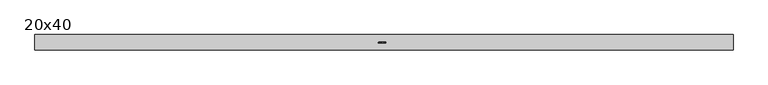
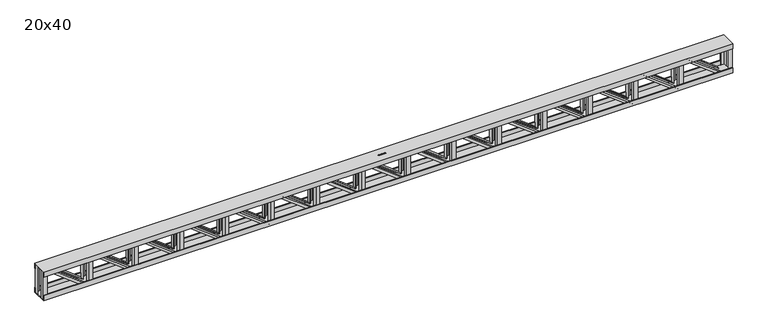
"""IFC4 building model written with IfcOpenShell, lengths in millimetres: beam geometry, Viga Treliçada - Igor Ramos.0001 : 20x40."""

import ifcopenshell
import ifcopenshell.guid

model = None  # the IFC model being written
_history = None  # IfcOwnerHistory: only IFC2X3 demands one
_inside = {}  # id of a spatial element -> (the spatial element, [elements in it])
_under = {}  # id of a project, library or spatial element -> (it, [spatial elements below it])
_declared = {}  # id of a project -> (the project, [libraries it declares])
_typed = {}  # id of a type object -> (the type object, [elements of that type])
_made_of = {}  # id of a material, layer set ... -> (it, [elements and type objects made of it])


def new_model(schema):
    """Start an empty IFC model of exactly this schema.

    Asked for "IFC4X3", IfcOpenShell would pick the latest addendum, in which some entities
    have other attributes; the version numbers below select the first issue.
    IFC2X3 requires an IfcOwnerHistory on every rooted entity: one is made here for all.
    """
    global model, _history
    if schema == "IFC4X3":
        model = ifcopenshell.file(schema_version=(4, 3, 0, 0))
    else:
        model = ifcopenshell.file(schema=schema)
    _inside.clear()
    _under.clear()
    _declared.clear()
    _typed.clear()
    _made_of.clear()
    _history = None
    if model.schema == "IFC2X3":
        org = make("IfcOrganization", Name="unknown")
        user = make(
            "IfcPersonAndOrganization",
            ThePerson=make("IfcPerson", FamilyName="unknown"),
            TheOrganization=org,
        )
        app = make(
            "IfcApplication",
            ApplicationDeveloper=org,
            Version="unknown",
            ApplicationFullName="unknown",
            ApplicationIdentifier="unknown",
        )
        _history = make(
            "IfcOwnerHistory",
            OwningUser=user,
            OwningApplication=app,
            ChangeAction="ADDED",
            CreationDate=0,
        )
    return model


def make(cls, **values):
    """One entity of the class cls with the attributes given. An attribute that is None is left unset."""
    return model.create_entity(
        cls, **{name: value for name, value in values.items() if value is not None}
    )


def rooted(cls, **values):
    """An entity with a GlobalId (a new one), such as an element, a storey or a relation."""
    return make(cls, GlobalId=ifcopenshell.guid.new(), OwnerHistory=_history, **values)


def si_unit(unit_type, name, prefix=None):
    """IfcSIUnit, for example si_unit("LENGTHUNIT", "METRE", prefix="MILLI")."""
    return make("IfcSIUnit", UnitType=unit_type, Prefix=prefix, Name=name)


def assignment(units):
    """IfcUnitAssignment: the units of a project."""
    return None if units is None else make("IfcUnitAssignment", Units=units)


def point(xyz):
    """IfcCartesianPoint."""
    return None if xyz is None else make("IfcCartesianPoint", Coordinates=xyz)


def direction(xyz):
    """IfcDirection."""
    return None if xyz is None else make("IfcDirection", DirectionRatios=xyz)


def frame(location, z_axis=None, x_axis=None):
    """IfcAxis2Placement3D, a coordinate frame: its origin and axes. An axis left out is left unset."""
    return make(
        "IfcAxis2Placement3D",
        Location=point(location),
        Axis=direction(z_axis),
        RefDirection=direction(x_axis),
    )


def origin():
    """The frame at (0, 0, 0) with its axes left unset."""
    return frame((0.0, 0.0, 0.0))


def place(relative_to, where):
    """IfcLocalPlacement: puts the frame where relative to a parent placement (None: the world)."""
    return make(
        "IfcLocalPlacement", PlacementRelTo=relative_to, RelativePlacement=where
    )


def context(
    kind, dimensions, precision=None, world=None, true_north=None, identifier=None
):
    """IfcGeometricRepresentationContext, for example the 3D "Model" context."""
    return make(
        "IfcGeometricRepresentationContext",
        ContextIdentifier=identifier,
        ContextType=kind,
        CoordinateSpaceDimension=dimensions,
        Precision=precision,
        WorldCoordinateSystem=world,
        TrueNorth=true_north,
    )


def project(units=None, contexts=None):
    """IfcProject with its units and contexts."""
    return rooted(
        "IfcProject",
        Name="project",
        RepresentationContexts=contexts,
        UnitsInContext=assignment(units),
    )


def spatial(cls, under=None, at=None, **own):
    """A site, building, storey or space (cls), placed at a placement, below another one or the project."""
    s = rooted(cls, ObjectPlacement=at, **own)
    if under is not None:
        _under.setdefault(under.id(), (under, []))[1].append(s)
    return s


def polyline(points):
    """IfcPolyline through the points."""
    return make("IfcPolyline", Points=[point(p) for p in points])


def outline(outer, holes=None, kind="AREA"):
    """IfcArbitraryClosedProfileDef: a profile drawn as a closed curve; with holes, ...WithVoids."""
    if holes is None:
        return make("IfcArbitraryClosedProfileDef", ProfileType=kind, OuterCurve=outer)
    return make(
        "IfcArbitraryProfileDefWithVoids",
        ProfileType=kind,
        OuterCurve=outer,
        InnerCurves=holes,
    )


def extrude(swept, where, along, depth):
    """IfcExtrudedAreaSolid: the profile swept, set in the frame where, extruded along a direction by depth."""
    return make(
        "IfcExtrudedAreaSolid",
        SweptArea=swept,
        Position=where,
        ExtrudedDirection=direction(along),
        Depth=depth,
    )


def faces_of(points, faces, orient=None, outer=None):
    """IfcFace entities. A face is a list of loops; a loop is a list of indices into points, from 0.

    orient and outer hold one flag for each loop. By default every Orientation is true, the
    first loop of a face is its IfcFaceOuterBound and the others are IfcFaceBound.
    """
    made = []
    for i, loops in enumerate(faces):
        bounds = []
        for j, loop in enumerate(loops):
            is_outer = j == 0 if outer is None else outer[i][j]
            bounds.append(
                make(
                    "IfcFaceOuterBound" if is_outer else "IfcFaceBound",
                    Bound=make("IfcPolyLoop", Polygon=[points[k] for k in loop]),
                    Orientation=True if orient is None else orient[i][j],
                )
            )
        made.append(make("IfcFace", Bounds=bounds))
    return made


def faceted_brep(points, faces, orient=None, outer=None, voids=None):
    """IfcFacetedBrep: a solid bounded by flat faces; with voids (closed shells), ...WithVoids."""
    shared = [point(p) for p in points]
    hull = make("IfcClosedShell", CfsFaces=faces_of(shared, faces, orient, outer))
    if voids is None:
        return make("IfcFacetedBrep", Outer=hull)
    return make(
        "IfcFacetedBrepWithVoids",
        Outer=hull,
        Voids=[
            make(cls, CfsFaces=faces_of(shared, fs, o, b)) for cls, fs, o, b in voids
        ],
    )


def shape(context_of_items, identifier, shape_type, items):
    """IfcShapeRepresentation: the items that make up one representation, for example the "Body"."""
    return make(
        "IfcShapeRepresentation",
        ContextOfItems=context_of_items,
        RepresentationIdentifier=identifier,
        RepresentationType=shape_type,
        Items=items,
    )


def source(mapping_origin, context_of_items, identifier, shape_type, items):
    """IfcRepresentationMap: a shape defined once, which mapped items show again and again."""
    return make(
        "IfcRepresentationMap",
        MappingOrigin=mapping_origin,
        MappedRepresentation=shape(context_of_items, identifier, shape_type, items),
    )


def transform(
    local_origin,
    x_axis=None,
    y_axis=None,
    z_axis=None,
    scale=None,
    scale2=None,
    scale3=None,
    uniform=True,
):
    """IfcCartesianTransformationOperator3D, or its non-uniform kind. x_axis, y_axis, z_axis: its Axis1, 2, 3."""
    if uniform:
        return make(
            "IfcCartesianTransformationOperator3D",
            Axis1=direction(x_axis),
            Axis2=direction(y_axis),
            LocalOrigin=point(local_origin),
            Scale=scale,
            Axis3=direction(z_axis),
        )
    return make(
        "IfcCartesianTransformationOperator3DnonUniform",
        Axis1=direction(x_axis),
        Axis2=direction(y_axis),
        LocalOrigin=point(local_origin),
        Scale=scale,
        Axis3=direction(z_axis),
        Scale2=scale2,
        Scale3=scale3,
    )


def mapped(mapping_source, mapping_target):
    """IfcMappedItem: shows the shape of a source again, moved by a transform."""
    return make(
        "IfcMappedItem", MappingSource=mapping_source, MappingTarget=mapping_target
    )


def made_of(thing, what):
    """Note that an element or type object is made of a material, layer set ...; save() writes the relation."""
    if what is not None:
        _made_of.setdefault(what.id(), (what, []))[1].append(thing)
    return thing


def element(
    cls,
    number,
    at=None,
    inside=None,
    cuts=None,
    type_object=None,
    material=None,
    context=None,
    identifier="Body",
    shape_type=None,
    held_by="IfcProductDefinitionShape",
    body=None,
    shapes=None,
    **own,
):
    """One element of the class cls, such as IfcWall. Its Tag is "e" and its number.

    at: its placement. inside: the storey or other place that contains it. cuts: it is an
    opening in that element (IfcRelVoidsElement). A single representation is given by context,
    identifier, shape_type and body (its items); several are given by shapes. held_by: the class
    of the entity that holds the representations. save() writes the other relations.
    """
    e = rooted(cls, Tag="e%d" % number, ObjectPlacement=at, **own)
    if body is not None:
        shapes = [shape(context, identifier, shape_type, body)]
    if shapes is not None:
        e.Representation = make(held_by, Representations=shapes)
    if inside is not None:
        _inside.setdefault(inside.id(), (inside, []))[1].append(e)
    if cuts is not None:
        rooted(
            "IfcRelVoidsElement", RelatingBuildingElement=cuts, RelatedOpeningElement=e
        )
    if type_object is not None:
        _typed.setdefault(type_object.id(), (type_object, []))[1].append(e)
    return made_of(e, material)


def aggregate(whole, parts):
    """IfcRelAggregates: a whole, such as a stair, and the parts it consists of."""
    return rooted("IfcRelAggregates", RelatingObject=whole, RelatedObjects=parts)


def save(model, path):
    """Write the relations noted so far, then the file.

    IfcRelAggregates (storeys below a building ...), IfcRelContainedInSpatialStructure (elements
    in a storey), IfcRelDefinesByType, IfcRelAssociatesMaterial and IfcRelDeclares: one each for
    every whole, place, type object, material and project.
    """
    for whole, parts in _under.values():
        aggregate(whole, parts)
    for where, things in _inside.values():
        rooted(
            "IfcRelContainedInSpatialStructure",
            RelatedElements=things,
            RelatingStructure=where,
        )
    for kind, things in _typed.values():
        rooted("IfcRelDefinesByType", RelatedObjects=things, RelatingType=kind)
    for what, things in _made_of.values():
        rooted("IfcRelAssociatesMaterial", RelatedObjects=things, RelatingMaterial=what)
    for by, libraries in _declared.values():
        rooted("IfcRelDeclares", RelatingContext=by, RelatedDefinitions=libraries)
    model.write(path)


def beam_20x40_c165763c(model_context):
    return source(origin(), model_context, "Body", "SolidModel", [
        extrude(outline(polyline([(3840.3693576, 90.0), (3890.3693576, 90.0), (3890.3693576, 85.0), (3845.3693576, 85.0), (3845.3693576, 40.0), (3840.3693576, 40.0), (3840.3693576, 90.0)])), frame((0.0, 0.0, -190.0), z_axis=(0.0, 0.0, 1.0), x_axis=(1.0, 0.0, 0.0)), (0.0, 0.0, 1.0), 380.0),
        extrude(outline(polyline([(3245.6971488, 90.0), (3295.6971488, 90.0), (3295.6971488, 85.0), (3250.6971488, 85.0), (3250.6971488, 40.0), (3245.6971488, 40.0), (3245.6971488, 90.0)])), frame((0.0, 0.0, -190.0), z_axis=(0.0, 0.0, 1.0), x_axis=(1.0, 0.0, 0.0)), (0.0, 0.0, 1.0), 380.0),
        extrude(outline(polyline([(2651.0249399, 90.0), (2701.0249399, 90.0), (2701.0249399, 85.0), (2656.0249399, 85.0), (2656.0249399, 40.0), (2651.0249399, 40.0), (2651.0249399, 90.0)])), frame((0.0, 0.0, -190.0), z_axis=(0.0, 0.0, 1.0), x_axis=(1.0, 0.0, 0.0)), (0.0, 0.0, 1.0), 380.0),
        extrude(outline(polyline([(2056.352731, 90.0), (2106.352731, 90.0), (2106.352731, 85.0), (2061.352731, 85.0), (2061.352731, 40.0), (2056.352731, 40.0), (2056.352731, 90.0)])), frame((0.0, 0.0, -190.0), z_axis=(0.0, 0.0, 1.0), x_axis=(1.0, 0.0, 0.0)), (0.0, 0.0, 1.0), 380.0),
        extrude(outline(polyline([(1461.6805222, 90.0), (1511.6805222, 90.0), (1511.6805222, 85.0), (1466.6805222, 85.0), (1466.6805222, 40.0), (1461.6805222, 40.0), (1461.6805222, 90.0)])), frame((0.0, 0.0, -190.0), z_axis=(0.0, 0.0, 1.0), x_axis=(1.0, 0.0, 0.0)), (0.0, 0.0, 1.0), 380.0),
        extrude(outline(polyline([(867.0083133, 90.0), (917.0083133, 90.0), (917.0083133, 85.0), (872.0083133, 85.0), (872.0083133, 40.0), (867.0083133, 40.0), (867.0083133, 90.0)])), frame((0.0, 0.0, -190.0), z_axis=(0.0, 0.0, 1.0), x_axis=(1.0, 0.0, 0.0)), (0.0, 0.0, 1.0), 380.0),
        extrude(outline(polyline([(272.3361044, 90.0), (322.3361044, 90.0), (322.3361044, 85.0), (277.3361044, 85.0), (277.3361044, 40.0), (272.3361044, 40.0), (272.3361044, 90.0)])), frame((0.0, 0.0, -190.0), z_axis=(0.0, 0.0, 1.0), x_axis=(1.0, 0.0, 0.0)), (0.0, 0.0, 1.0), 380.0),
        extrude(outline(polyline([(-322.3361044, 90.0), (-272.3361044, 90.0), (-272.3361044, 85.0), (-317.3361044, 85.0), (-317.3361044, 40.0), (-322.3361044, 40.0), (-322.3361044, 90.0)])), frame((0.0, 0.0, -190.0), z_axis=(0.0, 0.0, 1.0), x_axis=(1.0, 0.0, 0.0)), (0.0, 0.0, 1.0), 380.0),
        extrude(outline(polyline([(-917.0083133, 90.0), (-867.0083133, 90.0), (-867.0083133, 85.0), (-912.0083133, 85.0), (-912.0083133, 40.0), (-917.0083133, 40.0), (-917.0083133, 90.0)])), frame((0.0, 0.0, -190.0), z_axis=(0.0, 0.0, 1.0), x_axis=(1.0, 0.0, 0.0)), (0.0, 0.0, 1.0), 380.0),
        extrude(outline(polyline([(-1511.6805222, 90.0), (-1461.6805222, 90.0), (-1461.6805222, 85.0), (-1506.6805222, 85.0), (-1506.6805222, 40.0), (-1511.6805222, 40.0), (-1511.6805222, 90.0)])), frame((0.0, 0.0, -190.0), z_axis=(0.0, 0.0, 1.0), x_axis=(1.0, 0.0, 0.0)), (0.0, 0.0, 1.0), 380.0),
        extrude(outline(polyline([(3840.3693576, -90.0), (3840.3693576, -40.0), (3845.3693576, -40.0), (3845.3693576, -85.0), (3890.3693576, -85.0), (3890.3693576, -90.0), (3840.3693576, -90.0)])), frame((0.0, 0.0, -190.0), z_axis=(0.0, 0.0, 1.0), x_axis=(1.0, 0.0, 0.0)), (0.0, 0.0, 1.0), 380.0),
        extrude(outline(polyline([(3245.6971488, -90.0), (3245.6971488, -40.0), (3250.6971488, -40.0), (3250.6971488, -85.0), (3295.6971488, -85.0), (3295.6971488, -90.0), (3245.6971488, -90.0)])), frame((0.0, 0.0, -190.0), z_axis=(0.0, 0.0, 1.0), x_axis=(1.0, 0.0, 0.0)), (0.0, 0.0, 1.0), 380.0),
        extrude(outline(polyline([(2651.0249399, -90.0), (2651.0249399, -40.0), (2656.0249399, -40.0), (2656.0249399, -85.0), (2701.0249399, -85.0), (2701.0249399, -90.0), (2651.0249399, -90.0)])), frame((0.0, 0.0, -190.0), z_axis=(0.0, 0.0, 1.0), x_axis=(1.0, 0.0, 0.0)), (0.0, 0.0, 1.0), 380.0),
        extrude(outline(polyline([(2056.352731, -90.0), (2056.352731, -40.0), (2061.352731, -40.0), (2061.352731, -85.0), (2106.352731, -85.0), (2106.352731, -90.0), (2056.352731, -90.0)])), frame((0.0, 0.0, -190.0), z_axis=(0.0, 0.0, 1.0), x_axis=(1.0, 0.0, 0.0)), (0.0, 0.0, 1.0), 380.0),
        extrude(outline(polyline([(1461.6805222, -90.0), (1461.6805222, -40.0), (1466.6805222, -40.0), (1466.6805222, -85.0), (1511.6805222, -85.0), (1511.6805222, -90.0), (1461.6805222, -90.0)])), frame((0.0, 0.0, -190.0), z_axis=(0.0, 0.0, 1.0), x_axis=(1.0, 0.0, 0.0)), (0.0, 0.0, 1.0), 380.0),
        extrude(outline(polyline([(867.0083133, -90.0), (867.0083133, -40.0), (872.0083133, -40.0), (872.0083133, -85.0), (917.0083133, -85.0), (917.0083133, -90.0), (867.0083133, -90.0)])), frame((0.0, 0.0, -190.0), z_axis=(0.0, 0.0, 1.0), x_axis=(1.0, 0.0, 0.0)), (0.0, 0.0, 1.0), 380.0),
        extrude(outline(polyline([(272.3361044, -90.0), (272.3361044, -40.0), (277.3361044, -40.0), (277.3361044, -85.0), (322.3361044, -85.0), (322.3361044, -90.0), (272.3361044, -90.0)])), frame((0.0, 0.0, -190.0), z_axis=(0.0, 0.0, 1.0), x_axis=(1.0, 0.0, 0.0)), (0.0, 0.0, 1.0), 380.0),
        extrude(outline(polyline([(-322.3361044, -90.0), (-322.3361044, -40.0), (-317.3361044, -40.0), (-317.3361044, -85.0), (-272.3361044, -85.0), (-272.3361044, -90.0), (-322.3361044, -90.0)])), frame((0.0, 0.0, -190.0), z_axis=(0.0, 0.0, 1.0), x_axis=(1.0, 0.0, 0.0)), (0.0, 0.0, 1.0), 380.0),
        extrude(outline(polyline([(-917.0083133, -90.0), (-917.0083133, -40.0), (-912.0083133, -40.0), (-912.0083133, -85.0), (-867.0083133, -85.0), (-867.0083133, -90.0), (-917.0083133, -90.0)])), frame((0.0, 0.0, -190.0), z_axis=(0.0, 0.0, 1.0), x_axis=(1.0, 0.0, 0.0)), (0.0, 0.0, 1.0), 380.0),
        extrude(outline(polyline([(-1511.6805222, -90.0), (-1511.6805222, -40.0), (-1506.6805222, -40.0), (-1506.6805222, -85.0), (-1461.6805222, -85.0), (-1461.6805222, -90.0), (-1511.6805222, -90.0)])), frame((0.0, 0.0, -190.0), z_axis=(0.0, 0.0, 1.0), x_axis=(1.0, 0.0, 0.0)), (0.0, 0.0, 1.0), 380.0),
        faceted_brep([(4385.0415665, -90.0, -190.0), (4385.0415665, -85.0, -190.0), (4430.0415665, -85.0, -190.0), (4430.0415665, -40.0, -190.0), (4435.0415665, -40.0, -190.0), (4435.0415665, -90.0, -190.0), (3890.3693576, -90.0, 190.0), (3940.3693576, -90.0, 190.0), (3940.3693576, -40.0, 190.0), (3935.3693576, -40.0, 190.0), (3935.3693576, -85.0, 190.0), (3890.3693576, -85.0, 190.0)], [[[0, 1, 2, 3, 4, 5]], [[6, 7, 8, 9, 10, 11]], [[6, 11, 1, 0]], [[11, 10, 2, 1]], [[10, 9, 3, 2]], [[9, 8, 4, 3]], [[8, 7, 5, 4]], [[7, 6, 0, 5]]]),
        faceted_brep([(3790.3693576, -90.0, -190.0), (3790.3693576, -85.0, -190.0), (3835.3693576, -85.0, -190.0), (3835.3693576, -40.0, -190.0), (3840.3693576, -40.0, -190.0), (3840.3693576, -90.0, -190.0), (3295.6971488, -90.0, 190.0), (3345.6971488, -90.0, 190.0), (3345.6971488, -40.0, 190.0), (3340.6971488, -40.0, 190.0), (3340.6971488, -85.0, 190.0), (3295.6971488, -85.0, 190.0)], [[[0, 1, 2, 3, 4, 5]], [[6, 7, 8, 9, 10, 11]], [[6, 11, 1, 0]], [[11, 10, 2, 1]], [[10, 9, 3, 2]], [[9, 8, 4, 3]], [[8, 7, 5, 4]], [[7, 6, 0, 5]]]),
        faceted_brep([(3195.6971488, -90.0, -190.0), (3195.6971488, -85.0, -190.0), (3240.6971488, -85.0, -190.0), (3240.6971488, -40.0, -190.0), (3245.6971488, -40.0, -190.0), (3245.6971488, -90.0, -190.0), (2701.0249399, -90.0, 190.0), (2751.0249399, -90.0, 190.0), (2751.0249399, -40.0, 190.0), (2746.0249399, -40.0, 190.0), (2746.0249399, -85.0, 190.0), (2701.0249399, -85.0, 190.0)], [[[0, 1, 2, 3, 4, 5]], [[6, 7, 8, 9, 10, 11]], [[6, 11, 1, 0]], [[11, 10, 2, 1]], [[10, 9, 3, 2]], [[9, 8, 4, 3]], [[8, 7, 5, 4]], [[7, 6, 0, 5]]]),
        faceted_brep([(2601.0249399, -90.0, -190.0), (2601.0249399, -85.0, -190.0), (2646.0249399, -85.0, -190.0), (2646.0249399, -40.0, -190.0), (2651.0249399, -40.0, -190.0), (2651.0249399, -90.0, -190.0), (2106.352731, -90.0, 190.0), (2156.352731, -90.0, 190.0), (2156.352731, -40.0, 190.0), (2151.352731, -40.0, 190.0), (2151.352731, -85.0, 190.0), (2106.352731, -85.0, 190.0)], [[[0, 1, 2, 3, 4, 5]], [[6, 7, 8, 9, 10, 11]], [[6, 11, 1, 0]], [[11, 10, 2, 1]], [[10, 9, 3, 2]], [[9, 8, 4, 3]], [[8, 7, 5, 4]], [[7, 6, 0, 5]]]),
        faceted_brep([(2006.352731, -90.0, -190.0), (2006.352731, -85.0, -190.0), (2051.352731, -85.0, -190.0), (2051.352731, -40.0, -190.0), (2056.352731, -40.0, -190.0), (2056.352731, -90.0, -190.0), (1511.6805222, -90.0, 190.0), (1561.6805222, -90.0, 190.0), (1561.6805222, -40.0, 190.0), (1556.6805222, -40.0, 190.0), (1556.6805222, -85.0, 190.0), (1511.6805222, -85.0, 190.0)], [[[0, 1, 2, 3, 4, 5]], [[6, 7, 8, 9, 10, 11]], [[6, 11, 1, 0]], [[11, 10, 2, 1]], [[10, 9, 3, 2]], [[9, 8, 4, 3]], [[8, 7, 5, 4]], [[7, 6, 0, 5]]]),
        faceted_brep([(1411.6805222, -90.0, -190.0), (1411.6805222, -85.0, -190.0), (1456.6805222, -85.0, -190.0), (1456.6805222, -40.0, -190.0), (1461.6805222, -40.0, -190.0), (1461.6805222, -90.0, -190.0), (917.0083133, -90.0, 190.0), (967.0083133, -90.0, 190.0), (967.0083133, -40.0, 190.0), (962.0083133, -40.0, 190.0), (962.0083133, -85.0, 190.0), (917.0083133, -85.0, 190.0)], [[[0, 1, 2, 3, 4, 5]], [[6, 7, 8, 9, 10, 11]], [[6, 11, 1, 0]], [[11, 10, 2, 1]], [[10, 9, 3, 2]], [[9, 8, 4, 3]], [[8, 7, 5, 4]], [[7, 6, 0, 5]]]),
        faceted_brep([(817.0083133, -90.0, -190.0), (817.0083133, -85.0, -190.0), (862.0083133, -85.0, -190.0), (862.0083133, -40.0, -190.0), (867.0083133, -40.0, -190.0), (867.0083133, -90.0, -190.0), (322.3361044, -90.0, 190.0), (372.3361044, -90.0, 190.0), (372.3361044, -40.0, 190.0), (367.3361044, -40.0, 190.0), (367.3361044, -85.0, 190.0), (322.3361044, -85.0, 190.0)], [[[0, 1, 2, 3, 4, 5]], [[6, 7, 8, 9, 10, 11]], [[6, 11, 1, 0]], [[11, 10, 2, 1]], [[10, 9, 3, 2]], [[9, 8, 4, 3]], [[8, 7, 5, 4]], [[7, 6, 0, 5]]]),
        faceted_brep([(222.3361044, -90.0, -190.0), (222.3361044, -85.0, -190.0), (267.3361044, -85.0, -190.0), (267.3361044, -40.0, -190.0), (272.3361044, -40.0, -190.0), (272.3361044, -90.0, -190.0), (-272.3361044, -90.0, 190.0), (-222.3361044, -90.0, 190.0), (-222.3361044, -40.0, 190.0), (-227.3361044, -40.0, 190.0), (-227.3361044, -85.0, 190.0), (-272.3361044, -85.0, 190.0)], [[[0, 1, 2, 3, 4, 5]], [[6, 7, 8, 9, 10, 11]], [[6, 11, 1, 0]], [[11, 10, 2, 1]], [[10, 9, 3, 2]], [[9, 8, 4, 3]], [[8, 7, 5, 4]], [[7, 6, 0, 5]]]),
        faceted_brep([(-372.3361044, -90.0, -190.0), (-372.3361044, -85.0, -190.0), (-327.3361044, -85.0, -190.0), (-327.3361044, -40.0, -190.0), (-322.3361044, -40.0, -190.0), (-322.3361044, -90.0, -190.0), (-867.0083133, -90.0, 190.0), (-817.0083133, -90.0, 190.0), (-817.0083133, -40.0, 190.0), (-822.0083133, -40.0, 190.0), (-822.0083133, -85.0, 190.0), (-867.0083133, -85.0, 190.0)], [[[0, 1, 2, 3, 4, 5]], [[6, 7, 8, 9, 10, 11]], [[6, 11, 1, 0]], [[11, 10, 2, 1]], [[10, 9, 3, 2]], [[9, 8, 4, 3]], [[8, 7, 5, 4]], [[7, 6, 0, 5]]]),
        faceted_brep([(-967.0083133, -90.0, -190.0), (-967.0083133, -85.0, -190.0), (-922.0083133, -85.0, -190.0), (-922.0083133, -40.0, -190.0), (-917.0083133, -40.0, -190.0), (-917.0083133, -90.0, -190.0), (-1461.6805222, -90.0, 190.0), (-1411.6805222, -90.0, 190.0), (-1411.6805222, -40.0, 190.0), (-1416.6805222, -40.0, 190.0), (-1416.6805222, -85.0, 190.0), (-1461.6805222, -85.0, 190.0)], [[[0, 1, 2, 3, 4, 5]], [[6, 7, 8, 9, 10, 11]], [[6, 11, 1, 0]], [[11, 10, 2, 1]], [[10, 9, 3, 2]], [[9, 8, 4, 3]], [[8, 7, 5, 4]], [[7, 6, 0, 5]]]),
        faceted_brep([(4385.0415665, 90.0, -190.0), (4435.0415665, 90.0, -190.0), (4435.0415665, 40.0, -190.0), (4430.0415665, 40.0, -190.0), (4430.0415665, 85.0, -190.0), (4385.0415665, 85.0, -190.0), (3890.3693576, 90.0, 190.0), (3890.3693576, 85.0, 190.0), (3935.3693576, 85.0, 190.0), (3935.3693576, 40.0, 190.0), (3940.3693576, 40.0, 190.0), (3940.3693576, 90.0, 190.0)], [[[0, 1, 2, 3, 4, 5]], [[6, 7, 8, 9, 10, 11]], [[6, 0, 5, 7]], [[7, 5, 4, 8]], [[8, 4, 3, 9]], [[9, 3, 2, 10]], [[10, 2, 1, 11]], [[11, 1, 0, 6]]]),
        faceted_brep([(3790.3693576, 90.0, -190.0), (3840.3693576, 90.0, -190.0), (3840.3693576, 40.0, -190.0), (3835.3693576, 40.0, -190.0), (3835.3693576, 85.0, -190.0), (3790.3693576, 85.0, -190.0), (3295.6971488, 90.0, 190.0), (3295.6971488, 85.0, 190.0), (3340.6971488, 85.0, 190.0), (3340.6971488, 40.0, 190.0), (3345.6971488, 40.0, 190.0), (3345.6971488, 90.0, 190.0)], [[[0, 1, 2, 3, 4, 5]], [[6, 7, 8, 9, 10, 11]], [[6, 0, 5, 7]], [[7, 5, 4, 8]], [[8, 4, 3, 9]], [[9, 3, 2, 10]], [[10, 2, 1, 11]], [[11, 1, 0, 6]]]),
        faceted_brep([(3195.6971488, 90.0, -190.0), (3245.6971488, 90.0, -190.0), (3245.6971488, 40.0, -190.0), (3240.6971488, 40.0, -190.0), (3240.6971488, 85.0, -190.0), (3195.6971488, 85.0, -190.0), (2701.0249399, 90.0, 190.0), (2701.0249399, 85.0, 190.0), (2746.0249399, 85.0, 190.0), (2746.0249399, 40.0, 190.0), (2751.0249399, 40.0, 190.0), (2751.0249399, 90.0, 190.0)], [[[0, 1, 2, 3, 4, 5]], [[6, 7, 8, 9, 10, 11]], [[6, 0, 5, 7]], [[7, 5, 4, 8]], [[8, 4, 3, 9]], [[9, 3, 2, 10]], [[10, 2, 1, 11]], [[11, 1, 0, 6]]]),
        faceted_brep([(2601.0249399, 90.0, -190.0), (2651.0249399, 90.0, -190.0), (2651.0249399, 40.0, -190.0), (2646.0249399, 40.0, -190.0), (2646.0249399, 85.0, -190.0), (2601.0249399, 85.0, -190.0), (2106.352731, 90.0, 190.0), (2106.352731, 85.0, 190.0), (2151.352731, 85.0, 190.0), (2151.352731, 40.0, 190.0), (2156.352731, 40.0, 190.0), (2156.352731, 90.0, 190.0)], [[[0, 1, 2, 3, 4, 5]], [[6, 7, 8, 9, 10, 11]], [[6, 0, 5, 7]], [[7, 5, 4, 8]], [[8, 4, 3, 9]], [[9, 3, 2, 10]], [[10, 2, 1, 11]], [[11, 1, 0, 6]]]),
        faceted_brep([(2006.352731, 90.0, -190.0), (2056.352731, 90.0, -190.0), (2056.352731, 40.0, -190.0), (2051.352731, 40.0, -190.0), (2051.352731, 85.0, -190.0), (2006.352731, 85.0, -190.0), (1511.6805222, 90.0, 190.0), (1511.6805222, 85.0, 190.0), (1556.6805222, 85.0, 190.0), (1556.6805222, 40.0, 190.0), (1561.6805222, 40.0, 190.0), (1561.6805222, 90.0, 190.0)], [[[0, 1, 2, 3, 4, 5]], [[6, 7, 8, 9, 10, 11]], [[6, 0, 5, 7]], [[7, 5, 4, 8]], [[8, 4, 3, 9]], [[9, 3, 2, 10]], [[10, 2, 1, 11]], [[11, 1, 0, 6]]]),
        faceted_brep([(1411.6805222, 90.0, -190.0), (1461.6805222, 90.0, -190.0), (1461.6805222, 40.0, -190.0), (1456.6805222, 40.0, -190.0), (1456.6805222, 85.0, -190.0), (1411.6805222, 85.0, -190.0), (917.0083133, 90.0, 190.0), (917.0083133, 85.0, 190.0), (962.0083133, 85.0, 190.0), (962.0083133, 40.0, 190.0), (967.0083133, 40.0, 190.0), (967.0083133, 90.0, 190.0)], [[[0, 1, 2, 3, 4, 5]], [[6, 7, 8, 9, 10, 11]], [[6, 0, 5, 7]], [[7, 5, 4, 8]], [[8, 4, 3, 9]], [[9, 3, 2, 10]], [[10, 2, 1, 11]], [[11, 1, 0, 6]]]),
        faceted_brep([(817.0083133, 90.0, -190.0), (867.0083133, 90.0, -190.0), (867.0083133, 40.0, -190.0), (862.0083133, 40.0, -190.0), (862.0083133, 85.0, -190.0), (817.0083133, 85.0, -190.0), (322.3361044, 90.0, 190.0), (322.3361044, 85.0, 190.0), (367.3361044, 85.0, 190.0), (367.3361044, 40.0, 190.0), (372.3361044, 40.0, 190.0), (372.3361044, 90.0, 190.0)], [[[0, 1, 2, 3, 4, 5]], [[6, 7, 8, 9, 10, 11]], [[6, 0, 5, 7]], [[7, 5, 4, 8]], [[8, 4, 3, 9]], [[9, 3, 2, 10]], [[10, 2, 1, 11]], [[11, 1, 0, 6]]]),
        faceted_brep([(222.3361044, 90.0, -190.0), (272.3361044, 90.0, -190.0), (272.3361044, 40.0, -190.0), (267.3361044, 40.0, -190.0), (267.3361044, 85.0, -190.0), (222.3361044, 85.0, -190.0), (-272.3361044, 90.0, 190.0), (-272.3361044, 85.0, 190.0), (-227.3361044, 85.0, 190.0), (-227.3361044, 40.0, 190.0), (-222.3361044, 40.0, 190.0), (-222.3361044, 90.0, 190.0)], [[[0, 1, 2, 3, 4, 5]], [[6, 7, 8, 9, 10, 11]], [[6, 0, 5, 7]], [[7, 5, 4, 8]], [[8, 4, 3, 9]], [[9, 3, 2, 10]], [[10, 2, 1, 11]], [[11, 1, 0, 6]]]),
        faceted_brep([(-372.3361044, 90.0, -190.0), (-322.3361044, 90.0, -190.0), (-322.3361044, 40.0, -190.0), (-327.3361044, 40.0, -190.0), (-327.3361044, 85.0, -190.0), (-372.3361044, 85.0, -190.0), (-867.0083133, 90.0, 190.0), (-867.0083133, 85.0, 190.0), (-822.0083133, 85.0, 190.0), (-822.0083133, 40.0, 190.0), (-817.0083133, 40.0, 190.0), (-817.0083133, 90.0, 190.0)], [[[0, 1, 2, 3, 4, 5]], [[6, 7, 8, 9, 10, 11]], [[6, 0, 5, 7]], [[7, 5, 4, 8]], [[8, 4, 3, 9]], [[9, 3, 2, 10]], [[10, 2, 1, 11]], [[11, 1, 0, 6]]]),
        faceted_brep([(-967.0083133, 90.0, -190.0), (-917.0083133, 90.0, -190.0), (-917.0083133, 40.0, -190.0), (-922.0083133, 40.0, -190.0), (-922.0083133, 85.0, -190.0), (-967.0083133, 85.0, -190.0), (-1461.6805222, 90.0, 190.0), (-1461.6805222, 85.0, 190.0), (-1416.6805222, 85.0, 190.0), (-1416.6805222, 40.0, 190.0), (-1411.6805222, 40.0, 190.0), (-1411.6805222, 90.0, 190.0)], [[[0, 1, 2, 3, 4, 5]], [[6, 7, 8, 9, 10, 11]], [[6, 0, 5, 7]], [[7, 5, 4, 8]], [[8, 4, 3, 9]], [[9, 3, 2, 10]], [[10, 2, 1, 11]], [[11, 1, 0, 6]]]),
        extrude(outline(polyline([(-2106.352731, 90.0), (-2056.352731, 90.0), (-2056.352731, 85.0), (-2101.352731, 85.0), (-2101.352731, 40.0), (-2106.352731, 40.0), (-2106.352731, 90.0)])), frame((0.0, 0.0, -190.0), z_axis=(0.0, 0.0, 1.0), x_axis=(1.0, 0.0, 0.0)), (0.0, 0.0, 1.0), 380.0),
        extrude(outline(polyline([(-2701.0249399, 90.0), (-2651.0249399, 90.0), (-2651.0249399, 85.0), (-2696.0249399, 85.0), (-2696.0249399, 40.0), (-2701.0249399, 40.0), (-2701.0249399, 90.0)])), frame((0.0, 0.0, -190.0), z_axis=(0.0, 0.0, 1.0), x_axis=(1.0, 0.0, 0.0)), (0.0, 0.0, 1.0), 380.0),
        extrude(outline(polyline([(-2106.352731, -90.0), (-2106.352731, -40.0), (-2101.352731, -40.0), (-2101.352731, -85.0), (-2056.352731, -85.0), (-2056.352731, -90.0), (-2106.352731, -90.0)])), frame((0.0, 0.0, -190.0), z_axis=(0.0, 0.0, 1.0), x_axis=(1.0, 0.0, 0.0)), (0.0, 0.0, 1.0), 380.0),
        extrude(outline(polyline([(-2701.0249399, -90.0), (-2701.0249399, -40.0), (-2696.0249399, -40.0), (-2696.0249399, -85.0), (-2651.0249399, -85.0), (-2651.0249399, -90.0), (-2701.0249399, -90.0)])), frame((0.0, 0.0, -190.0), z_axis=(0.0, 0.0, 1.0), x_axis=(1.0, 0.0, 0.0)), (0.0, 0.0, 1.0), 380.0),
        faceted_brep([(-1561.6805222, 90.0, -190.0), (-1511.6805222, 90.0, -190.0), (-1511.6805222, 40.0, -190.0), (-1516.6805222, 40.0, -190.0), (-1516.6805222, 85.0, -190.0), (-1561.6805222, 85.0, -190.0), (-2056.352731, 90.0, 190.0), (-2056.352731, 85.0, 190.0), (-2011.352731, 85.0, 190.0), (-2011.352731, 40.0, 190.0), (-2006.352731, 40.0, 190.0), (-2006.352731, 90.0, 190.0)], [[[0, 1, 2, 3, 4, 5]], [[6, 7, 8, 9, 10, 11]], [[6, 0, 5, 7]], [[7, 5, 4, 8]], [[8, 4, 3, 9]], [[9, 3, 2, 10]], [[10, 2, 1, 11]], [[11, 1, 0, 6]]]),
        faceted_brep([(-2156.352731, 90.0, -190.0), (-2106.352731, 90.0, -190.0), (-2106.352731, 40.0, -190.0), (-2111.352731, 40.0, -190.0), (-2111.352731, 85.0, -190.0), (-2156.352731, 85.0, -190.0), (-2651.0249399, 90.0, 190.0), (-2651.0249399, 85.0, 190.0), (-2606.0249399, 85.0, 190.0), (-2606.0249399, 40.0, 190.0), (-2601.0249399, 40.0, 190.0), (-2601.0249399, 90.0, 190.0)], [[[0, 1, 2, 3, 4, 5]], [[6, 7, 8, 9, 10, 11]], [[6, 0, 5, 7]], [[7, 5, 4, 8]], [[8, 4, 3, 9]], [[9, 3, 2, 10]], [[10, 2, 1, 11]], [[11, 1, 0, 6]]]),
        faceted_brep([(-2751.0249399, 90.0, -190.0), (-2701.0249399, 90.0, -190.0), (-2701.0249399, 40.0, -190.0), (-2706.0249399, 40.0, -190.0), (-2706.0249399, 85.0, -190.0), (-2751.0249399, 85.0, -190.0), (-3245.6971488, 90.0, 190.0), (-3245.6971488, 85.0, 190.0), (-3200.6971488, 85.0, 190.0), (-3200.6971488, 40.0, 190.0), (-3195.6971488, 40.0, 190.0), (-3195.6971488, 90.0, 190.0)], [[[0, 1, 2, 3, 4, 5]], [[6, 7, 8, 9, 10, 11]], [[6, 0, 5, 7]], [[7, 5, 4, 8]], [[8, 4, 3, 9]], [[9, 3, 2, 10]], [[10, 2, 1, 11]], [[11, 1, 0, 6]]]),
        faceted_brep([(-1561.6805222, -90.0, -190.0), (-1561.6805222, -85.0, -190.0), (-1516.6805222, -85.0, -190.0), (-1516.6805222, -40.0, -190.0), (-1511.6805222, -40.0, -190.0), (-1511.6805222, -90.0, -190.0), (-2056.352731, -90.0, 190.0), (-2006.352731, -90.0, 190.0), (-2006.352731, -40.0, 190.0), (-2011.352731, -40.0, 190.0), (-2011.352731, -85.0, 190.0), (-2056.352731, -85.0, 190.0)], [[[0, 1, 2, 3, 4, 5]], [[6, 7, 8, 9, 10, 11]], [[6, 11, 1, 0]], [[11, 10, 2, 1]], [[10, 9, 3, 2]], [[9, 8, 4, 3]], [[8, 7, 5, 4]], [[7, 6, 0, 5]]]),
        faceted_brep([(-2156.352731, -90.0, -190.0), (-2156.352731, -85.0, -190.0), (-2111.352731, -85.0, -190.0), (-2111.352731, -40.0, -190.0), (-2106.352731, -40.0, -190.0), (-2106.352731, -90.0, -190.0), (-2651.0249399, -90.0, 190.0), (-2601.0249399, -90.0, 190.0), (-2601.0249399, -40.0, 190.0), (-2606.0249399, -40.0, 190.0), (-2606.0249399, -85.0, 190.0), (-2651.0249399, -85.0, 190.0)], [[[0, 1, 2, 3, 4, 5]], [[6, 7, 8, 9, 10, 11]], [[6, 11, 1, 0]], [[11, 10, 2, 1]], [[10, 9, 3, 2]], [[9, 8, 4, 3]], [[8, 7, 5, 4]], [[7, 6, 0, 5]]]),
        faceted_brep([(-2751.0249399, -90.0, -190.0), (-2751.0249399, -85.0, -190.0), (-2706.0249399, -85.0, -190.0), (-2706.0249399, -40.0, -190.0), (-2701.0249399, -40.0, -190.0), (-2701.0249399, -90.0, -190.0), (-3245.6971488, -90.0, 190.0), (-3195.6971488, -90.0, 190.0), (-3195.6971488, -40.0, 190.0), (-3200.6971488, -40.0, 190.0), (-3200.6971488, -85.0, 190.0), (-3245.6971488, -85.0, 190.0)], [[[0, 1, 2, 3, 4, 5]], [[6, 7, 8, 9, 10, 11]], [[6, 11, 1, 0]], [[11, 10, 2, 1]], [[10, 9, 3, 2]], [[9, 8, 4, 3]], [[8, 7, 5, 4]], [[7, 6, 0, 5]]]),
        extrude(outline(polyline([(-3295.6971488, 90.0), (-3245.6971488, 90.0), (-3245.6971488, 85.0), (-3290.6971488, 85.0), (-3290.6971488, 40.0), (-3295.6971488, 40.0), (-3295.6971488, 90.0)])), frame((0.0, 0.0, -190.0), z_axis=(0.0, 0.0, 1.0), x_axis=(1.0, 0.0, 0.0)), (0.0, 0.0, 1.0), 380.0),
        extrude(outline(polyline([(-3295.6971488, -90.0), (-3295.6971488, -40.0), (-3290.6971488, -40.0), (-3290.6971488, -85.0), (-3245.6971488, -85.0), (-3245.6971488, -90.0), (-3295.6971488, -90.0)])), frame((0.0, 0.0, -190.0), z_axis=(0.0, 0.0, 1.0), x_axis=(1.0, 0.0, 0.0)), (0.0, 0.0, 1.0), 380.0),
        extrude(outline(polyline([(4532.101426, 90.0), (4532.101426, 40.0), (4527.101426, 40.0), (4527.101426, 85.0), (4482.101426, 85.0), (4482.101426, 90.0), (4532.101426, 90.0)])), frame((0.0, 0.0, -190.0), z_axis=(0.0, 0.0, 1.0), x_axis=(1.0, 0.0, 0.0)), (0.0, 0.0, 1.0), 380.0),
        extrude(outline(polyline([(4532.101426, -90.0), (4482.101426, -90.0), (4482.101426, -85.0), (4527.101426, -85.0), (4527.101426, -40.0), (4532.101426, -40.0), (4532.101426, -90.0)])), frame((0.0, 0.0, -190.0), z_axis=(0.0, 0.0, 1.0), x_axis=(1.0, 0.0, 0.0)), (0.0, 0.0, 1.0), 380.0),
        extrude(outline(polyline([(-3890.3693576, 90.0), (-3840.3693576, 90.0), (-3840.3693576, 85.0), (-3885.3693576, 85.0), (-3885.3693576, 40.0), (-3890.3693576, 40.0), (-3890.3693576, 90.0)])), frame((0.0, 0.0, -190.0), z_axis=(0.0, 0.0, 1.0), x_axis=(1.0, 0.0, 0.0)), (0.0, 0.0, 1.0), 380.0),
        extrude(outline(polyline([(-3890.3693576, -90.0), (-3890.3693576, -40.0), (-3885.3693576, -40.0), (-3885.3693576, -85.0), (-3840.3693576, -85.0), (-3840.3693576, -90.0), (-3890.3693576, -90.0)])), frame((0.0, 0.0, -190.0), z_axis=(0.0, 0.0, 1.0), x_axis=(1.0, 0.0, 0.0)), (0.0, 0.0, 1.0), 380.0),
        faceted_brep([(-3345.6971488, -90.0, -190.0), (-3345.6971488, -85.0, -190.0), (-3300.6971488, -85.0, -190.0), (-3300.6971488, -40.0, -190.0), (-3295.6971488, -40.0, -190.0), (-3295.6971488, -90.0, -190.0), (-3840.3693576, -90.0, 190.0), (-3790.3693576, -90.0, 190.0), (-3790.3693576, -40.0, 190.0), (-3795.3693576, -40.0, 190.0), (-3795.3693576, -85.0, 190.0), (-3840.3693576, -85.0, 190.0)], [[[0, 1, 2, 3, 4, 5]], [[6, 7, 8, 9, 10, 11]], [[6, 11, 1, 0]], [[11, 10, 2, 1]], [[10, 9, 3, 2]], [[9, 8, 4, 3]], [[8, 7, 5, 4]], [[7, 6, 0, 5]]]),
        faceted_brep([(-3345.6971488, 90.0, -190.0), (-3295.6971488, 90.0, -190.0), (-3295.6971488, 40.0, -190.0), (-3300.6971488, 40.0, -190.0), (-3300.6971488, 85.0, -190.0), (-3345.6971488, 85.0, -190.0), (-3840.3693576, 90.0, 190.0), (-3840.3693576, 85.0, 190.0), (-3795.3693576, 85.0, 190.0), (-3795.3693576, 40.0, 190.0), (-3790.3693576, 40.0, 190.0), (-3790.3693576, 90.0, 190.0)], [[[0, 1, 2, 3, 4, 5]], [[6, 7, 8, 9, 10, 11]], [[6, 0, 5, 7]], [[7, 5, 4, 8]], [[8, 4, 3, 9]], [[9, 3, 2, 10]], [[10, 2, 1, 11]], [[11, 1, 0, 6]]]),
        faceted_brep([(-3940.3693576, 90.0, -190.0), (-3890.3693576, 90.0, -190.0), (-3890.3693576, 40.0, -190.0), (-3895.3693576, 40.0, -190.0), (-3895.3693576, 85.0, -190.0), (-3940.3693576, 85.0, -190.0), (-4435.0415665, 90.0, 190.0), (-4435.0415665, 85.0, 190.0), (-4390.0415665, 85.0, 190.0), (-4390.0415665, 40.0, 190.0), (-4385.0415665, 40.0, 190.0), (-4385.0415665, 90.0, 190.0)], [[[0, 1, 2, 3, 4, 5]], [[6, 7, 8, 9, 10, 11]], [[6, 0, 5, 7]], [[7, 5, 4, 8]], [[8, 4, 3, 9]], [[9, 3, 2, 10]], [[10, 2, 1, 11]], [[11, 1, 0, 6]]]),
        extrude(outline(polyline([(-4485.0415665, 90.0), (-4435.0415665, 90.0), (-4435.0415665, 85.0), (-4480.0415665, 85.0), (-4480.0415665, 40.0), (-4485.0415665, 40.0), (-4485.0415665, 90.0)])), frame((0.0, 0.0, -190.0), z_axis=(0.0, 0.0, 1.0), x_axis=(1.0, 0.0, 0.0)), (0.0, 0.0, 1.0), 380.0),
        extrude(outline(polyline([(-4485.0415665, -90.0), (-4485.0415665, -40.0), (-4480.0415665, -40.0), (-4480.0415665, -85.0), (-4435.0415665, -85.0), (-4435.0415665, -90.0), (-4485.0415665, -90.0)])), frame((0.0, 0.0, -190.0), z_axis=(0.0, 0.0, 1.0), x_axis=(1.0, 0.0, 0.0)), (0.0, 0.0, 1.0), 380.0),
        faceted_brep([(-3940.3693576, -90.0, -190.0), (-3940.3693576, -85.0, -190.0), (-3895.3693576, -85.0, -190.0), (-3895.3693576, -40.0, -190.0), (-3890.3693576, -40.0, -190.0), (-3890.3693576, -90.0, -190.0), (-4435.0415665, -90.0, 190.0), (-4385.0415665, -90.0, 190.0), (-4385.0415665, -40.0, 190.0), (-4390.0415665, -40.0, 190.0), (-4390.0415665, -85.0, 190.0), (-4435.0415665, -85.0, 190.0)], [[[0, 1, 2, 3, 4, 5]], [[6, 7, 8, 9, 10, 11]], [[6, 11, 1, 0]], [[11, 10, 2, 1]], [[10, 9, 3, 2]], [[9, 8, 4, 3]], [[8, 7, 5, 4]], [[7, 6, 0, 5]]]),
        extrude(outline(polyline([(-100.0, 200.0), (100.0, 200.0), (100.0, 130.0), (90.0, 130.0), (90.0, 190.0), (-90.0, 190.0), (-90.0, 130.0), (-100.0, 130.0), (-100.0, 200.0)])), frame((-4485.0415665, 0.0, 0.0), z_axis=(1.0, 0.0, 0.0), x_axis=(0.0, 1.0, 0.0)), (0.0, 0.0, 1.0), 9017.1429925),
        extrude(outline(polyline([(100.0, -130.0), (100.0, -200.0), (-100.0, -200.0), (-100.0, -130.0), (-90.0, -130.0), (-90.0, -190.0), (90.0, -190.0), (90.0, -130.0), (100.0, -130.0)])), frame((-4485.0415665, 0.0, 0.0), z_axis=(1.0, 0.0, 0.0), x_axis=(0.0, 1.0, 0.0)), (0.0, 0.0, 1.0), 9017.1429925),
        extrude(outline(polyline([(-40.6337926, -4.4248778), (-42.2708675, -4.6848478), (-43.3708347, -5.0), (-44.5480571, -4.6394756), (-45.476346, -3.5309246), (-45.8331915, -1.8877183), (-45.2801422, 0.3195737), (-43.9042636, 1.9799477), (-42.3064294, 2.5342233), (-41.1807105, 2.219071), (-40.2561005, 1.258899), (-40.0255611, 2.3772603), (-38.7698572, 2.3772603), (-39.809737, -2.2286223), (-40.0255611, -3.290575), (-38.5859162, -3.3469836), (-37.3437013, -1.9551634), (-36.8863014, -0.1513153), (-37.4749126, 1.8744882), (-39.2321622, 3.3815781), (-41.8134676, 3.9468901), (-44.7589761, 3.2295202), (-46.8264729, 1.1730599), (-47.5597843, -1.6964197), (-46.8338305, -4.461666), (-44.7332243, -6.1735436), (-41.6883877, -6.7265928), (-38.6938283, -6.1772224), (-36.8863014, -4.843037), (-35.6305975, -4.843037), (-36.8188564, -6.3366379), (-38.8238132, -7.539612), (-41.6246215, -7.9822967), (-44.4070356, -7.5911155), (-46.5787657, -6.4163457), (-47.9301189, -4.6100451), (-48.5015622, -1.8141419), (-47.8197543, 1.3717162), (-45.462857, 4.215444), (-41.757059, 5.202594), (-38.7257114, 4.5109758), (-36.6042585, 2.4483841), (-35.9445235, -0.1145271), (-37.3130445, -3.6241213), (-40.6337926, -4.4248778)]), holes=[polyline([(-44.5774876, -1.9073387), (-44.1372555, -3.2611444), (-43.1280326, -3.7442961), (-42.3272761, -3.5309246), (-41.5240671, -2.8981675), (-40.8974414, -1.8337623), (-40.653413, -0.5388177), (-41.110813, 0.8014991), (-42.2254954, 1.2785194), (-43.0421934, 1.0712792), (-43.7840888, 0.4066391), (-44.3604373, -0.7055908), (-44.5774876, -1.9073387)])]), frame((0.0, 0.0, 200.0), z_axis=(0.0, 0.0, 1.0), x_axis=(1.0, 0.0, 0.0)), (0.0, 0.0, 1.0), 1.0),
        extrude(outline(polyline([(-34.2179306, 3.7899271), (-34.2179306, 5.045631), (-32.9622268, 5.045631), (-32.9622268, 3.7899271), (-34.2179306, 3.7899271)])), frame((0.0, 0.0, 200.0), z_axis=(0.0, 0.0, 1.0), x_axis=(1.0, 0.0, 0.0)), (0.0, 0.0, 1.0), 1.0),
        extrude(outline(polyline([(-34.2179306, -5.0), (-34.2179306, 2.3772603), (-32.9622268, 2.3772603), (-32.9622268, -5.0), (-34.2179306, -5.0)])), frame((0.0, 0.0, 200.0), z_axis=(0.0, 0.0, 1.0), x_axis=(1.0, 0.0, 0.0)), (0.0, 0.0, 1.0), 1.0),
        extrude(outline(polyline([(-31.3925969, -5.6278519), (-30.136893, -5.7848149), (-28.5108546, -6.7265928), (-27.2257202, -6.4102143), (-26.6125835, -5.5223924), (-26.5267444, -4.0582221), (-28.4887817, -5.0), (-30.7488034, -3.9037117), (-31.5495599, -1.2745817), (-31.1902618, 0.6715141), (-30.1503821, 2.048619), (-28.5500954, 2.5342233), (-26.5267444, 1.4354824), (-26.5267444, 2.3772603), (-25.2710405, 2.3772603), (-25.2710405, -3.9920033), (-25.6143971, -6.431061), (-26.7021015, -7.5653638), (-28.5353801, -7.9822967), (-30.6237236, -7.3949118), (-31.3925969, -5.6278519)]), holes=[polyline([(-30.293856, -1.1887425), (-29.7579746, -3.1323857), (-28.4127528, -3.7442961), (-27.0699835, -3.1360646), (-26.5267444, -1.2255307), (-27.085925, 0.6469886), (-28.4323731, 1.2785194), (-29.7506169, 0.6567988), (-30.293856, -1.1887425)])]), frame((0.0, 0.0, 200.0), z_axis=(0.0, 0.0, 1.0), x_axis=(1.0, 0.0, 0.0)), (0.0, 0.0, 1.0), 1.0),
        extrude(outline(polyline([(-23.7014107, -1.3113699), (-22.6149325, 1.7175252), (-20.4027355, 2.5342233), (-18.0298966, 1.5397156), (-17.1089653, -1.2083629), (-17.5160881, -3.4426329), (-18.7018944, -4.7069207), (-20.4027355, -5.156963), (-22.7902896, -4.1661341), (-23.7014107, -1.3113699)]), holes=[polyline([(-22.4457068, -1.3089173), (-21.8644532, -3.2550131), (-20.4027355, -3.9012591), (-18.9459228, -3.2513342), (-18.3646692, -1.2696766), (-18.9496016, 0.6322733), (-20.4027355, 1.2785194), (-21.8644532, 0.6347259), (-22.4457068, -1.3089173)])]), frame((0.0, 0.0, 200.0), z_axis=(0.0, 0.0, 1.0), x_axis=(1.0, 0.0, 0.0)), (0.0, 0.0, 1.0), 1.0),
        extrude(outline(polyline([(-15.6962985, -5.0), (-15.6962985, 2.3772603), (-14.5975576, 2.3772603), (-14.5975576, 1.285877), (-13.8176477, 2.2914211), (-13.0328328, 2.5342233), (-11.7722238, 2.1467209), (-12.1916093, 1.021002), (-13.0745261, 1.2785194), (-14.2370332, 0.3440991), (-14.4405946, -1.1225238), (-14.4405946, -5.0), (-15.6962985, -5.0)])), frame((0.0, 0.0, 200.0), z_axis=(0.0, 0.0, 1.0), x_axis=(1.0, 0.0, 0.0)), (0.0, 0.0, 1.0), 1.0),
        extrude(outline(polyline([(-10.9874089, -5.0), (-10.9874089, 2.3772603), (-9.888668, 2.3772603), (-9.888668, 1.285877), (-9.1087582, 2.2914211), (-8.3239433, 2.5342233), (-7.0633343, 2.1467209), (-7.4827198, 1.021002), (-8.3656366, 1.2785194), (-9.5281437, 0.3440991), (-9.731705, -1.1225238), (-9.731705, -5.0), (-10.9874089, -5.0)])), frame((0.0, 0.0, 200.0), z_axis=(0.0, 0.0, 1.0), x_axis=(1.0, 0.0, 0.0)), (0.0, 0.0, 1.0), 1.0),
        extrude(outline(polyline([(-1.5696298, -4.0582221), (-2.7873193, -4.9092558), (-4.1325411, -5.156963), (-5.9560095, -4.5609942), (-6.5924454, -3.0379627), (-6.3520958, -2.0446813), (-5.720565, -1.3236326), (-4.8413271, -0.9116048), (-3.7548489, -0.7227587), (-1.5769875, -0.2911105), (-1.9154389, 0.9155425), (-3.3035803, 1.2785194), (-4.5739995, 1.0369435), (-5.1797785, 0.1797785), (-6.4354824, 0.3367415), (-5.8922433, 1.5630148), (-4.7984075, 2.281611), (-3.1417122, 2.5342233), (-1.6199071, 2.3110415), (-0.7602895, 1.7506346), (-0.3752396, 0.8983747), (-0.313926, -0.2003662), (-0.313926, -1.7626384), (-0.2501598, -3.9441787), (0.0, -5.0), (-1.2557039, -5.0), (-1.5696298, -4.0582221)]), holes=[polyline([(-1.5733087, -1.724624), (-3.5954334, -1.9318642), (-4.6757802, -2.1354255), (-3.8652135, -3.9012591), (-2.5947943, -3.6008221), (-1.7756438, -2.8736421), (-1.5733087, -1.724624)])]), frame((0.0, 0.0, 200.0), z_axis=(0.0, 0.0, 1.0), x_axis=(1.0, 0.0, 0.0)), (0.0, 0.0, 1.0), 1.0),
        extrude(outline(polyline([(1.4126669, -5.0), (1.4126669, 2.3772603), (2.6683707, 2.3772603), (2.6683707, 1.1632497), (3.5316672, 2.1577574), (4.760393, 2.5342233), (6.0185494, 2.1503997), (6.7101676, 1.074958), (8.9272697, 2.5342233), (10.5692497, 1.927218), (11.1443719, 0.0571512), (11.1443719, -5.0), (9.888668, -5.0), (9.888668, -0.4824091), (9.7721721, 0.5660546), (7.3981069, 0.7757473), (6.9063713, -0.8355758), (6.9063713, -5.0), (5.6506674, -5.0), (5.6506674, -0.3426139), (5.3600407, 0.8738492), (4.4072263, 1.2785194), (3.4777111, 1.0087393), (2.8596694, 0.2190192), (2.6683707, -1.2794868), (2.6683707, -5.0), (1.4126669, -5.0)])), frame((0.0, 0.0, 200.0), z_axis=(0.0, 0.0, 1.0), x_axis=(1.0, 0.0, 0.0)), (0.0, 0.0, 1.0), 1.0),
        extrude(outline(polyline([(12.7140018, -1.3113699), (13.8004799, 1.7175252), (16.012677, 2.5342233), (18.3855158, 1.5397156), (19.3064471, -1.2083629), (18.8993244, -3.4426329), (17.7135181, -4.7069207), (16.012677, -5.156963), (13.6251228, -4.1661341), (12.7140018, -1.3113699)]), holes=[polyline([(13.9697056, -1.3089173), (14.5509592, -3.2550131), (16.012677, -3.9012591), (17.4694897, -3.2513342), (18.0507432, -1.2696766), (17.4658109, 0.6322733), (16.012677, 1.2785194), (14.5509592, 0.6347259), (13.9697056, -1.3089173)])]), frame((0.0, 0.0, 200.0), z_axis=(0.0, 0.0, 1.0), x_axis=(1.0, 0.0, 0.0)), (0.0, 0.0, 1.0), 1.0),
        extrude(outline(polyline([(20.248225, -2.8025182), (21.5039289, -2.6455552), (22.0851824, -3.577523), (23.4169153, -3.9012591), (24.6971446, -3.604501), (25.1140775, -2.9079777), (23.4022, -1.9858202), (21.5112865, -1.3714573), (20.6860046, -0.6540874), (20.405188, 0.3588144), (20.6308223, 1.2944609), (21.2464115, 2.0093783), (22.0447154, 2.3809391), (23.1250622, 2.5342233), (24.6529988, 2.2877423), (25.6242072, 1.6206496), (26.0558554, 0.4937045), (24.8001516, 0.3367415), (24.3280363, 1.0295859), (23.2231641, 1.2785194), (22.0214162, 1.0406224), (23.3605067, -0.423548), (25.2035955, -1.0146117), (26.0595343, -1.684157), (26.3697814, -2.7755402), (26.0055782, -3.9772881), (24.954662, -4.8491684), (23.3997474, -5.156963), (21.2096233, -4.5634467), (20.248225, -2.8025182)])), frame((0.0, 0.0, 200.0), z_axis=(0.0, 0.0, 1.0), x_axis=(1.0, 0.0, 0.0)), (0.0, 0.0, 1.0), 1.0),
        extrude(outline(polyline([(29.0381522, -5.0), (27.7824483, -5.0), (27.7824483, 5.045631), (29.0381522, 5.045631), (29.0381522, 1.3202127), (31.0099996, 2.5342233), (32.2681561, 2.2607643), (33.2442696, 1.4918909), (33.8439173, 0.2962745), (34.0609677, -1.2010053), (33.1621093, -4.1244409), (31.002642, -5.156963), (29.0381522, -3.8252302), (29.0381522, -5.0)]), holes=[polyline([(29.0381522, -1.2598664), (29.3815087, -3.0158898), (30.89473, -3.9012591), (32.2387255, -3.2488817), (32.8052638, -1.3040122), (32.2620247, 0.6482149), (30.948686, 1.2785194), (29.6046904, 0.626142), (29.0381522, -1.2598664)])]), frame((0.0, 0.0, 200.0), z_axis=(0.0, 0.0, 1.0), x_axis=(1.0, 0.0, 0.0)), (0.0, 0.0, 1.0), 1.0),
        extrude(outline(polyline([(35.4736345, 3.7899271), (35.4736345, 5.045631), (36.7293384, 5.045631), (36.7293384, 3.7899271), (35.4736345, 3.7899271)])), frame((0.0, 0.0, 200.0), z_axis=(0.0, 0.0, 1.0), x_axis=(1.0, 0.0, 0.0)), (0.0, 0.0, 1.0), 1.0),
        extrude(outline(polyline([(35.4736345, -5.0), (35.4736345, 2.3772603), (36.7293384, 2.3772603), (36.7293384, -5.0), (35.4736345, -5.0)])), frame((0.0, 0.0, 200.0), z_axis=(0.0, 0.0, 1.0), x_axis=(1.0, 0.0, 0.0)), (0.0, 0.0, 1.0), 1.0),
        extrude(outline(polyline([(38.6128942, -5.0), (38.6128942, 2.3772603), (39.8685981, 2.3772603), (39.8685981, 1.1632497), (40.7318945, 2.1577574), (41.9606204, 2.5342233), (43.2187768, 2.1503997), (43.9103949, 1.074958), (46.1274971, 2.5342233), (47.7694771, 1.927218), (48.3445993, 0.0571512), (48.3445993, -5.0), (47.0888954, -5.0), (47.0888954, -0.4824091), (46.9723994, 0.5660546), (44.5983343, 0.7757473), (44.1065987, -0.8355758), (44.1065987, -5.0), (42.8508948, -5.0), (42.8508948, -0.3426139), (42.560268, 0.8738492), (41.6074537, 1.2785194), (40.6779385, 1.0087393), (40.0598967, 0.2190192), (39.8685981, -1.2794868), (39.8685981, -5.0), (38.6128942, -5.0)])), frame((0.0, 0.0, 200.0), z_axis=(0.0, 0.0, 1.0), x_axis=(1.0, 0.0, 0.0)), (0.0, 0.0, 1.0), 1.0),
    ])


if __name__ == "__main__":
    model = new_model("IFC4")
    model_context = context("Model", 3, world=origin())
    ifc_project = project(units=[si_unit("LENGTHUNIT", "METRE", prefix="MILLI")], contexts=[model_context])
    site = spatial("IfcSite", under=ifc_project)
    building = spatial("IfcBuilding", under=site)
    placement = place(None, origin())
    beam_20x40_shape = beam_20x40_c165763c(model_context)
    element("IfcBeam", 1, ObjectType="Viga Treliçada - Igor Ramos.0001 : 20x40", at=placement, inside=building, context=model_context, shape_type="MappedRepresentation", body=[
        mapped(beam_20x40_shape, transform((0.0, 0.0, 0.0), x_axis=(1.0, 0.0, 0.0), y_axis=(0.0, 1.0, 0.0), z_axis=(0.0, 0.0, 1.0))),
    ])
    save(model, "model.ifc")
